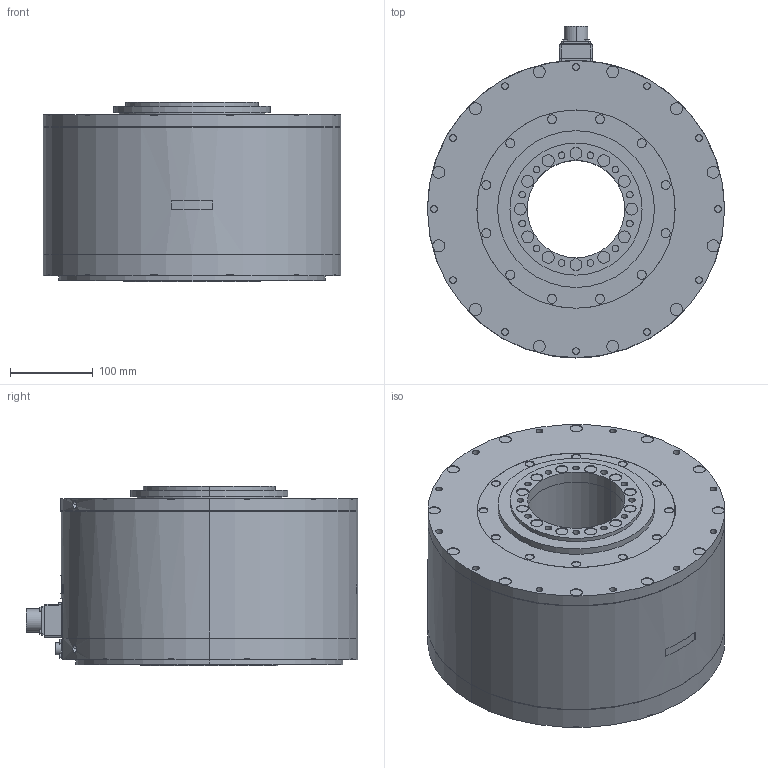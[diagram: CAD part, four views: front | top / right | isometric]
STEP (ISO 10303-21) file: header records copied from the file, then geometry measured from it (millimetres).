
FILE_DESCRIPTION (( 'STEP AP203' ), '1' );
FILE_NAME ('sgm7f_1en_a3_.STEP', '2016-08-19T09:15:01', ( '' ), ( '' ), 'SwSTEP 2.0', 'SolidWorks 2010', '' );
FILE_SCHEMA (( 'CONFIG_CONTROL_DESIGN' ));
Length unit declared in the file: millimetre
Products named in the file (1): sgm7f_1en_a3_
Bounding box: 360 x 402 x 217.5 mm (x, y, z)
Volume: 18039720 mm3; surface area: 551592.6 mm2
Topology: 1 solids, 1 shells, 540 faces, 1146 edges, 764 vertices
Faces by surface type: cylinder 326, plane 209, bspline 5
Entity records: 15453 total; most frequent: CARTESIAN_POINT 3044, DIRECTION 2854, ORIENTED_EDGE 2292, AXIS2_PLACEMENT_3D 1196, EDGE_CURVE 1146, VERTEX_POINT 764, EDGE_LOOP 698, CIRCLE 660
